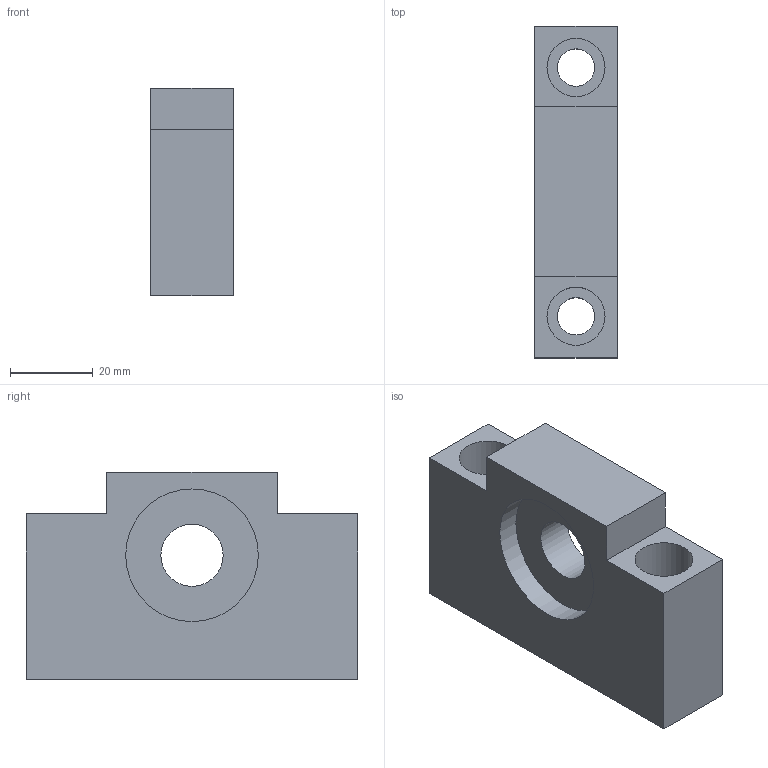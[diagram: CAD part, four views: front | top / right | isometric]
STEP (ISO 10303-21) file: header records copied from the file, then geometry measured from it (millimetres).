
FILE_DESCRIPTION((''),'2;1');
FILE_NAME('D:\製品 (図面)\カタログ用3D\ネジ関連\STEP形式\FH\FH15.stp','2010-06-01T16:44:09',('Tsuchiya'),(''),'Autodesk Inventor 10','Autodesk Inventor 10','');
FILE_SCHEMA(('AUTOMOTIVE_DESIGN { 1 0 10303 214 1 1 1 1 }'));
Length unit declared in the file: millimetre
Products named in the file (1): FH15
Bounding box: 20 x 80 x 50 mm (x, y, z)
Volume: 54687.5 mm3; surface area: 15948.9 mm2
Topology: 1 solids, 1 shells, 21 faces, 45 edges, 30 vertices
Faces by surface type: plane 12, bspline 6, cylinder 3
Full cylindrical faces by diameter (mm): 15 x1, 32 x2
Entity records: 625 total; most frequent: CARTESIAN_POINT 164, DIRECTION 84, ORIENTED_EDGE 76, EDGE_CURVE 38, EDGE_LOOP 38, AXIS2_PLACEMENT_3D 30, VERTEX_POINT 30, VECTOR 24
